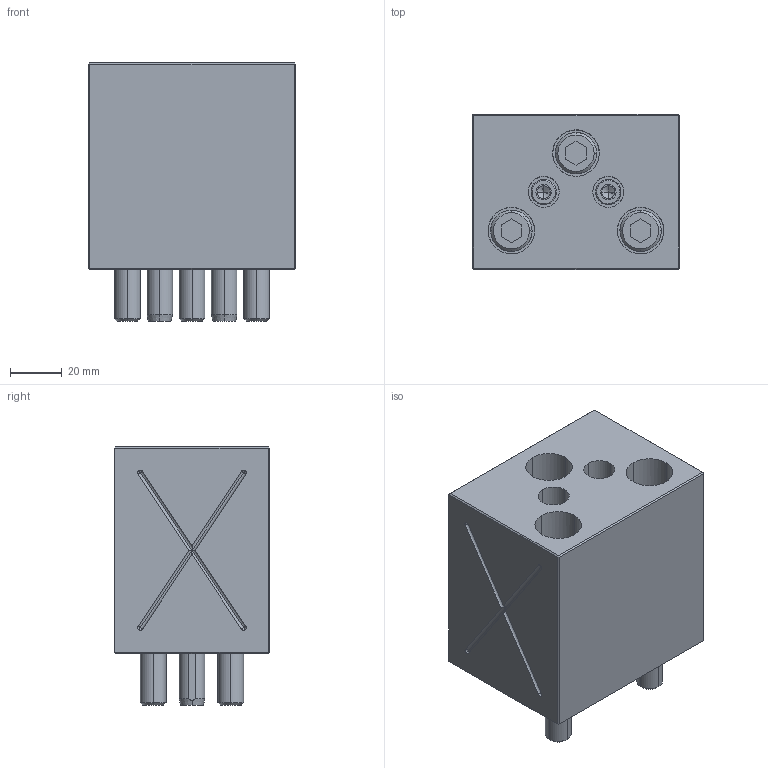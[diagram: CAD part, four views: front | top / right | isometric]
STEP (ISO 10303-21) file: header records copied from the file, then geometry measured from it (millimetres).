
FILE_DESCRIPTION(('CATIA V5 STEP Exchange'),'2;1');
FILE_NAME('D:\temp\coloor-modify-101001\PGWN\3d_pgwn80-80_4957_r00.stp','2010-10-01T01:05:34+00:00',('none'),('none'),'CATIA Version 5 Release 18 SP 5 (IN-10)','CATIA V5 STEP AP214','none');
FILE_SCHEMA(('AUTOMOTIVE_DESIGN { 1 0 10303 214 1 1 1 1 }'));
Length unit declared in the file: millimetre
Products named in the file (1): PGWN80-80
Bounding box: 80 x 60 x 100 mm (x, y, z)
Volume: 342274.1 mm3; surface area: 59668.7 mm2
Topology: 6 solids, 6 shells, 250 faces, 601 edges, 349 vertices
Faces by surface type: cylinder 112, plane 66, cone 48, revolution 24
Entity records: 7720 total; most frequent: CARTESIAN_POINT 2263, ORIENTED_EDGE 1138, DIRECTION 952, EDGE_CURVE 569, AXIS2_PLACEMENT_3D 432, VERTEX_POINT 349, EDGE_LOOP 278, VECTOR 271
